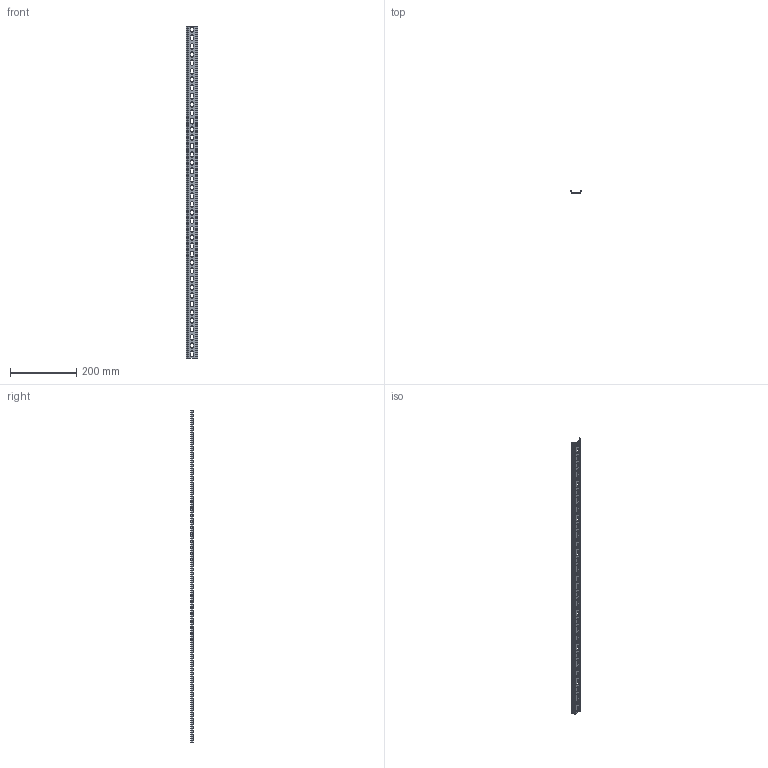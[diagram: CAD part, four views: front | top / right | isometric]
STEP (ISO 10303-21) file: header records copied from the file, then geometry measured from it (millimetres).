
FILE_DESCRIPTION (( 'STEP AP214' ), '1' );
FILE_NAME ('DIN-ðåéêà 1000ìì õ 0,8 ìì.STEP', '2025-10-22T12:55:24', ( '' ), ( '' ), 'SwSTEP 2.0', 'SolidWorks 2018', '' );
FILE_SCHEMA (( 'AUTOMOTIVE_DESIGN' ));
Length unit declared in the file: millimetre
Products named in the file (1): DIN-ðåéêà 1000ìì õ 0,8 ìì
Bounding box: 35.2 x 8.3 x 1000 mm (x, y, z)
Volume: 32914 mm3; surface area: 85327.6 mm2
Topology: 1 solids, 1 shells, 238 faces, 676 edges, 440 vertices
Faces by surface type: cylinder 128, plane 110
Entity records: 7974 total; most frequent: DIRECTION 1410, CARTESIAN_POINT 1355, ORIENTED_EDGE 1352, EDGE_CURVE 676, AXIS2_PLACEMENT_3D 495, VERTEX_POINT 440, LINE 420, VECTOR 420
